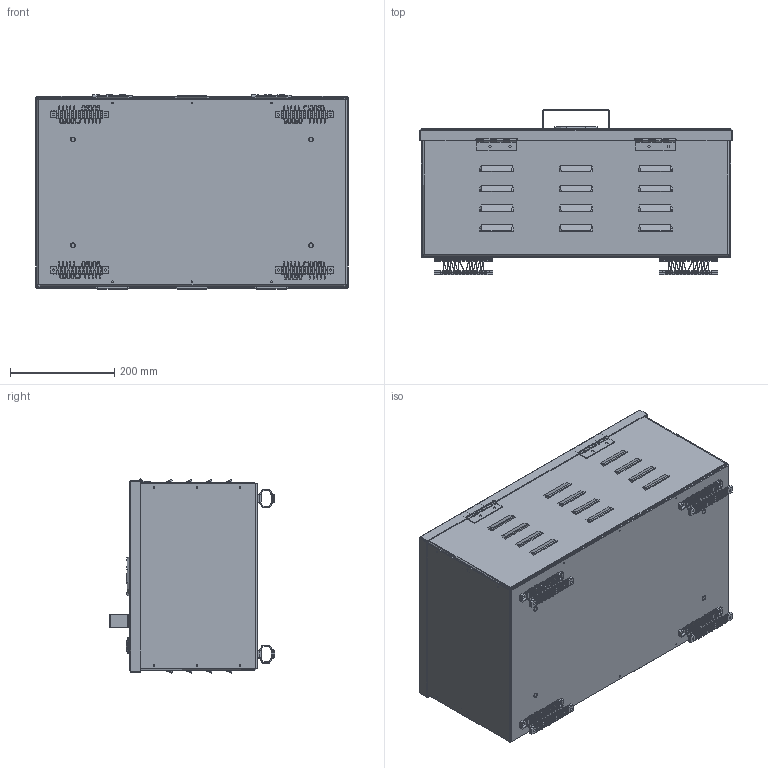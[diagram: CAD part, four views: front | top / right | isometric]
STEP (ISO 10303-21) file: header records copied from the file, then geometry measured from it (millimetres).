
FILE_DESCRIPTION (( 'STEP AP203' ), '1' );
FILE_NAME ('MTSTR-3P-208V-10HP-26A-DCM-M3.STEP', '2025-09-08T15:33:21', ( '' ), ( '' ), 'SwSTEP 2.0', 'SolidWorks 2020', '' );
FILE_SCHEMA (( 'CONFIG_CONTROL_DESIGN' ));
Length unit declared in the file: inch
Products named in the file (17): FAB0000281380B-2; FAB0000281380C; FAB0000281380A; flat washer type b narrow_ai_Narrow FW 0.19; FAB0000281380B-1; GS2-7d5 10 hp (7.5 kW) Soft starter, 220v,380v,480v,690v; MTSTR-3P-208V-10HP-26A-DCM-M3; flush stud_pmi_PEM FHS-0518-20 ---N; 62225K7_Horizontal-Force Bolt-Down Vibration-Damping Mount_62225K7; FAB0000281380B; FAB0000281380A-1; Hinge 1.5x3 - Offset PO1 (1.5'''')_15665A343; Hinge 1.5x3 - Offset_Flat; 9378K351_Vibration-Damping Sandwich Mount with Insert_9378K351; 80625A34 Cam Lock; FAB0000281380A-2; Hinge 1.5x3 - Offset PO2 (1.5'''')_15665A343
Assembly tree (30 placements, depth 3):
  MTSTR-3P-208V-10HP-26A-DCM-M3
    FAB0000281380A
      FAB0000281380A-1
      FAB0000281380A-2  x2
      flush stud_pmi_PEM FHS-0518-20 ---N  x4
    FAB0000281380B
      FAB0000281380B-1
      FAB0000281380B-2
    GS2-7d5 10 hp (7.5 kW) Soft starter, 220v,380v,480v,690v
    FAB0000281380C
    62225K7_Horizontal-Force Bolt-Down Vibration-Damping Mount_62225K7  x4
    9378K351_Vibration-Damping Sandwich Mount with Insert_9378K351  x4
    Hinge 1.5x3 - Offset_Flat  x2
      Hinge 1.5x3 - Offset PO1 (1.5'''')_15665A343
      Hinge 1.5x3 - Offset PO2 (1.5'''')_15665A343
    80625A34 Cam Lock
    flat washer type b narrow_ai_Narrow FW 0.19  x4
Bounding box: 600.69 x 317.63 x 373.25 mm (x, y, z)
Topology: 166 solids, 174 shells, 10110 faces, 25252 edges, 14658 vertices
Faces by surface type: cylinder 4512, plane 3449, bspline 1927, cone 166, torus 36, sphere 20
Entity records: 120771 total; most frequent: CARTESIAN_POINT 46658, ORIENTED_EDGE 15782, DIRECTION 13936, EDGE_CURVE 7891, AXIS2_PLACEMENT_3D 4845, VERTEX_POINT 4773, LINE 4246, VECTOR 4246
